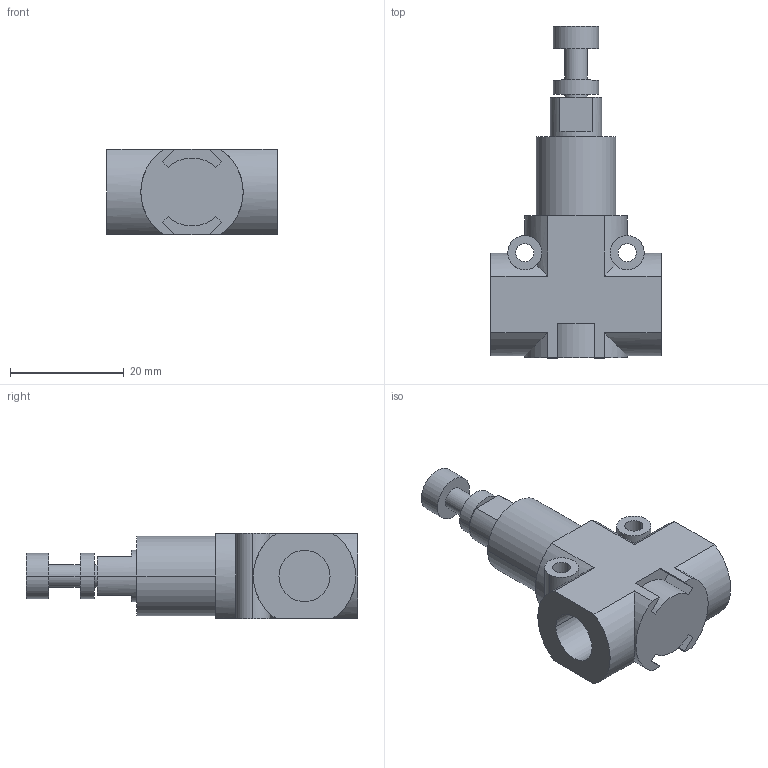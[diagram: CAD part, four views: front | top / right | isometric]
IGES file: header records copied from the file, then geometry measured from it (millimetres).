
Global section: file name: No Iges File Name specified; native system: Autodesk Inventor 2009; preprocessor: AutoDesk Inventor Iges Exporter R2009; author: rivolro1; date: 20090430.143909; units: millimetre
Bounding box: 30 x 58.4 x 15 mm (x, y, z)
Volume: 10646.7 mm3; surface area: 5256.4 mm2
Topology: 1 solids, 2 shells, 81 faces, 204 edges, 136 vertices
Faces by surface type: plane 36, cylinder 25, bspline 14, revolution 6
